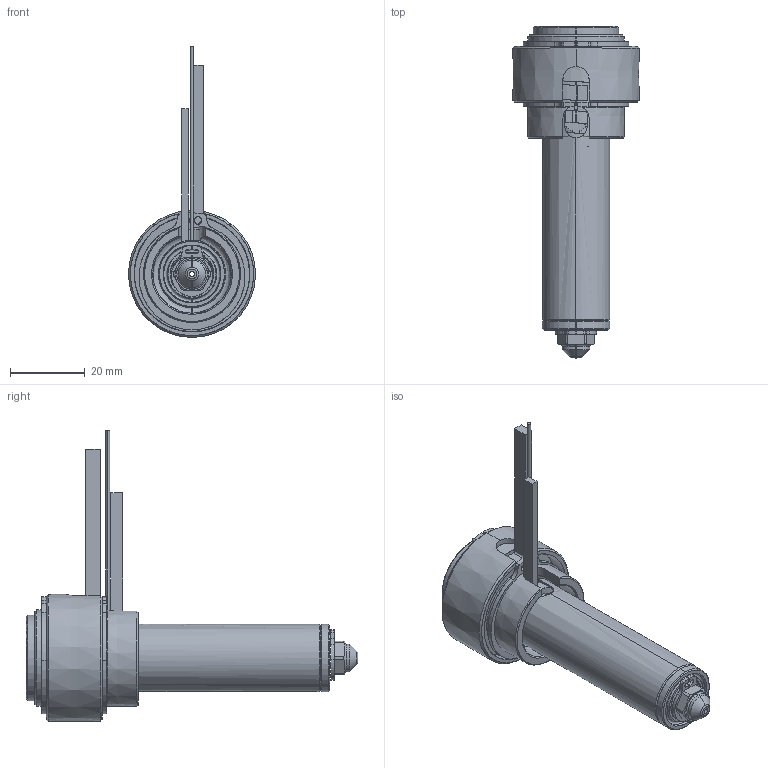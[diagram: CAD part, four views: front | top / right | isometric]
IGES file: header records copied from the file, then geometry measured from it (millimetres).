
Start section: SolidWorks IGES file using analytic representation for surfaces
Global section: file name: C:\Documents and Settings\ws-20\Desktop\TEM\UGER2502-M-A-0 [Øb-1.30 ØC-4.0].IGS; native system: SolidWorks 2012; preprocessor: SolidWorks 2012; author: ws-20; date: 120405.101721; units: millimetre
Bounding box: 34 x 88.9 x 77.9 mm (x, y, z)
Surface area: 23549.9 mm2 (no closed solid volume)
Topology: 0 solids, 0 shells, 193 faces, 2529 edges, 2529 vertices
Faces by surface type: revolution 121, bspline 72
